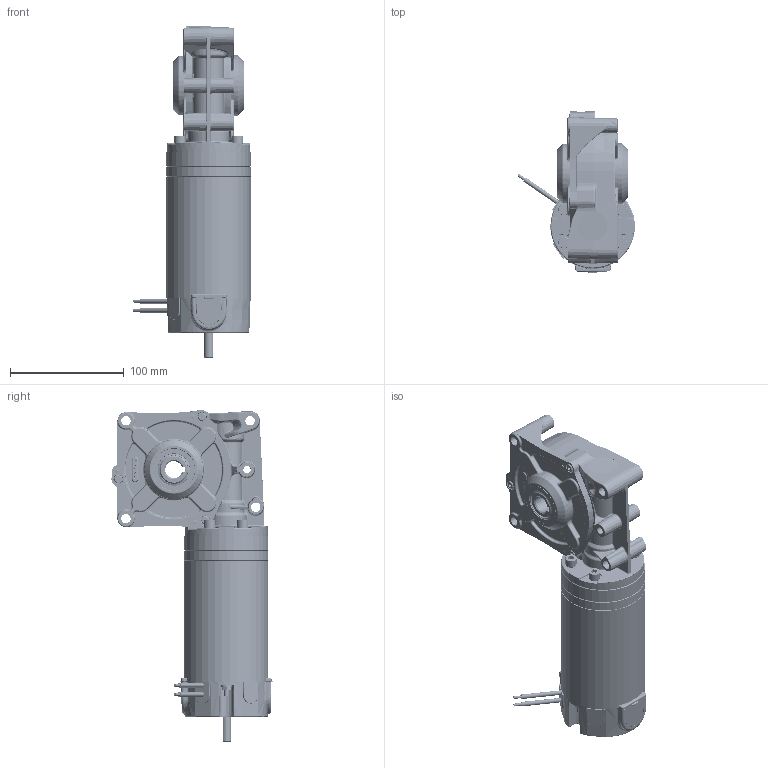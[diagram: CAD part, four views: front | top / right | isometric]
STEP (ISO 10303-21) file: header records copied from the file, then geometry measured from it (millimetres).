
FILE_DESCRIPTION (( 'STEP AP214' ), '1' );
FILE_NAME ('BRx70-60-GB12 (render model).STEP', '2024-01-16T09:04:34', ( '' ), ( '' ), 'SwSTEP 2.0', 'SolidWorks 2023', '' );
FILE_SCHEMA (( 'AUTOMOTIVE_DESIGN' ));
Length unit declared in the file: millimetre
Products named in the file (1): BRx70-60-GB12 (render model)
Bounding box: 103.27 x 141.48 x 291.55 mm (x, y, z)
Volume: 564454.5 mm3; surface area: 279837.8 mm2
Topology: 57 solids, 57 shells, 4290 faces, 10221 edges, 6015 vertices
Faces by surface type: cylinder 1163, bspline 994, plane 947, torus 547, cone 533, sphere 106
Entity records: 202950 total; most frequent: CARTESIAN_POINT 63819, ORIENTED_EDGE 20088, DIRECTION 18188, EDGE_CURVE 10044, AXIS2_PLACEMENT_3D 7497, VERTEX_POINT 6015, EDGE_LOOP 4569, UNCERTAINTY_MEASURE_WITH_UNIT 4348
